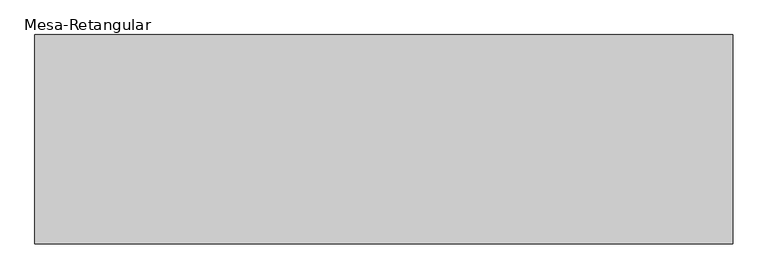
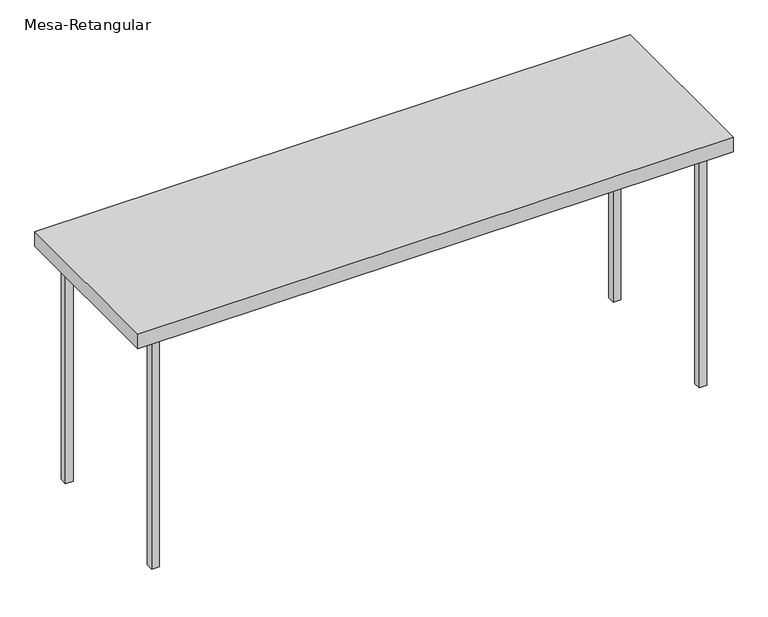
"""IFC4 building model written with IfcOpenShell, lengths in millimetres: furniture geometry, Mesa-Retangular : Mesa aço inox 200x70cm 88AL 2."""

from ifc_helpers import new_model, si_unit, frame, origin, origin_with_axes, place, context, project, spatial, polyline, outline, extrude, source, transform, mapped, element, save


def mesa_retangular_6bbddae8(model_context):
    return source(origin(), model_context, "Body", "SweptSolid", [
        extrude(outline(polyline([(-932.8946305, 238.2145104), (-932.8946305, 263.6145104), (-907.4946305, 263.6145104), (-907.4946305, 238.2145104), (-932.8946305, 238.2145104)])), origin_with_axes(), (0.0, 0.0, 1.0), 829.2),
        extrude(outline(polyline([(-932.8946305, -238.2145104), (-907.4946305, -238.2145104), (-907.4946305, -263.6145104), (-932.8946305, -263.6145104), (-932.8946305, -238.2145104)])), origin_with_axes(), (0.0, 0.0, 1.0), 829.2),
        extrude(outline(polyline([(932.8946305, 238.2145104), (907.4946305, 238.2145104), (907.4946305, 263.6145104), (932.8946305, 263.6145104), (932.8946305, 238.2145104)])), origin_with_axes(), (0.0, 0.0, 1.0), 829.2),
        extrude(outline(polyline([(932.8946305, -238.2145104), (932.8946305, -263.6145104), (907.4946305, -263.6145104), (907.4946305, -238.2145104), (932.8946305, -238.2145104)])), origin_with_axes(), (0.0, 0.0, 1.0), 829.2),
        extrude(outline(polyline([(1000.0, 300.0), (1000.0, -300.0), (-1000.0, -300.0), (-1000.0, 300.0), (1000.0, 300.0)])), frame((0.0, 0.0, 829.2), z_axis=(0.0, 0.0, 1.0), x_axis=(1.0, 0.0, 0.0)), (0.0, 0.0, 1.0), 50.8),
    ])


if __name__ == "__main__":
    model = new_model("IFC4")
    model_context = context("Model", 3, world=origin())
    ifc_project = project(units=[si_unit("LENGTHUNIT", "METRE", prefix="MILLI")], contexts=[model_context])
    site = spatial("IfcSite", under=ifc_project)
    building = spatial("IfcBuilding", under=site)
    placement = place(None, origin())
    mesa_retangular_shape = mesa_retangular_6bbddae8(model_context)
    element("IfcFurniture", 1, ObjectType="Mesa-Retangular : Mesa aço inox 200x70cm 88AL 2", at=placement, inside=building, context=model_context, shape_type="MappedRepresentation", body=[
        mapped(mesa_retangular_shape, transform((0.0, 0.0, 0.0), x_axis=(1.0, 0.0, 0.0), y_axis=(0.0, 1.0, 0.0), z_axis=(0.0, 0.0, 1.0))),
    ])
    save(model, "model.ifc")
